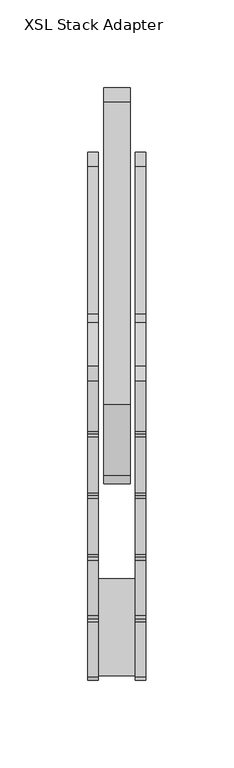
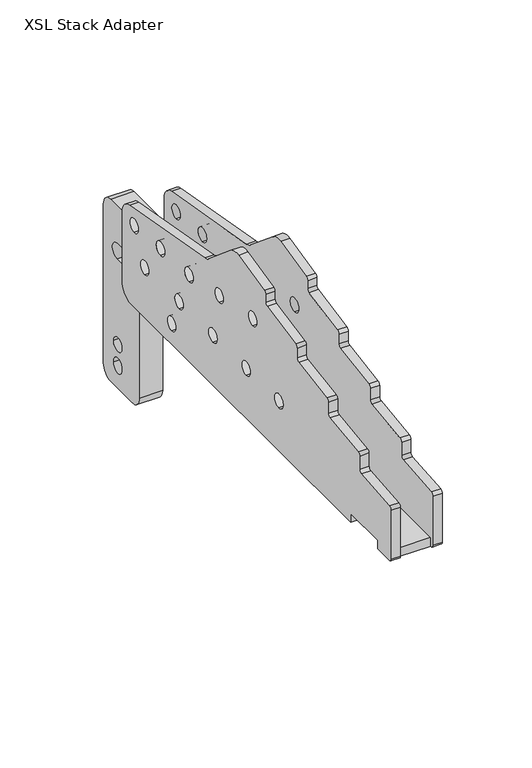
"""IFC4 building model written with IfcOpenShell, lengths in millimetres: proxy geometry, d&b SL-Series XSL Stack Adapter : XSL Stack Adapter."""

import ifcopenshell
import ifcopenshell.guid

model = None  # the IFC model being written
_history = None  # IfcOwnerHistory: only IFC2X3 demands one
_inside = {}  # id of a spatial element -> (the spatial element, [elements in it])
_under = {}  # id of a project, library or spatial element -> (it, [spatial elements below it])
_declared = {}  # id of a project -> (the project, [libraries it declares])
_typed = {}  # id of a type object -> (the type object, [elements of that type])
_made_of = {}  # id of a material, layer set ... -> (it, [elements and type objects made of it])


def new_model(schema):
    """Start an empty IFC model of exactly this schema.

    Asked for "IFC4X3", IfcOpenShell would pick the latest addendum, in which some entities
    have other attributes; the version numbers below select the first issue.
    IFC2X3 requires an IfcOwnerHistory on every rooted entity: one is made here for all.
    """
    global model, _history
    if schema == "IFC4X3":
        model = ifcopenshell.file(schema_version=(4, 3, 0, 0))
    else:
        model = ifcopenshell.file(schema=schema)
    _inside.clear()
    _under.clear()
    _declared.clear()
    _typed.clear()
    _made_of.clear()
    _history = None
    if model.schema == "IFC2X3":
        org = make("IfcOrganization", Name="unknown")
        user = make(
            "IfcPersonAndOrganization",
            ThePerson=make("IfcPerson", FamilyName="unknown"),
            TheOrganization=org,
        )
        app = make(
            "IfcApplication",
            ApplicationDeveloper=org,
            Version="unknown",
            ApplicationFullName="unknown",
            ApplicationIdentifier="unknown",
        )
        _history = make(
            "IfcOwnerHistory",
            OwningUser=user,
            OwningApplication=app,
            ChangeAction="ADDED",
            CreationDate=0,
        )
    return model


def make(cls, **values):
    """One entity of the class cls with the attributes given. An attribute that is None is left unset."""
    return model.create_entity(
        cls, **{name: value for name, value in values.items() if value is not None}
    )


def rooted(cls, **values):
    """An entity with a GlobalId (a new one), such as an element, a storey or a relation."""
    return make(cls, GlobalId=ifcopenshell.guid.new(), OwnerHistory=_history, **values)


def si_unit(unit_type, name, prefix=None):
    """IfcSIUnit, for example si_unit("LENGTHUNIT", "METRE", prefix="MILLI")."""
    return make("IfcSIUnit", UnitType=unit_type, Prefix=prefix, Name=name)


def assignment(units):
    """IfcUnitAssignment: the units of a project."""
    return None if units is None else make("IfcUnitAssignment", Units=units)


def point(xyz):
    """IfcCartesianPoint."""
    return None if xyz is None else make("IfcCartesianPoint", Coordinates=xyz)


def direction(xyz):
    """IfcDirection."""
    return None if xyz is None else make("IfcDirection", DirectionRatios=xyz)


def frame(location, z_axis=None, x_axis=None):
    """IfcAxis2Placement3D, a coordinate frame: its origin and axes. An axis left out is left unset."""
    return make(
        "IfcAxis2Placement3D",
        Location=point(location),
        Axis=direction(z_axis),
        RefDirection=direction(x_axis),
    )


def frame_2d(location, x_axis=None):
    """IfcAxis2Placement2D, a coordinate frame in the plane: its origin and x axis."""
    return make(
        "IfcAxis2Placement2D", Location=point(location), RefDirection=direction(x_axis)
    )


def origin():
    """The frame at (0, 0, 0) with its axes left unset."""
    return frame((0.0, 0.0, 0.0))


def origin_with_axes():
    """The frame at (0, 0, 0) with the z axis (0, 0, 1) and the x axis (1, 0, 0) written out."""
    return frame((0.0, 0.0, 0.0), z_axis=(0.0, 0.0, 1.0), x_axis=(1.0, 0.0, 0.0))


def place(relative_to, where):
    """IfcLocalPlacement: puts the frame where relative to a parent placement (None: the world)."""
    return make(
        "IfcLocalPlacement", PlacementRelTo=relative_to, RelativePlacement=where
    )


def context(
    kind, dimensions, precision=None, world=None, true_north=None, identifier=None
):
    """IfcGeometricRepresentationContext, for example the 3D "Model" context."""
    return make(
        "IfcGeometricRepresentationContext",
        ContextIdentifier=identifier,
        ContextType=kind,
        CoordinateSpaceDimension=dimensions,
        Precision=precision,
        WorldCoordinateSystem=world,
        TrueNorth=true_north,
    )


def project(units=None, contexts=None):
    """IfcProject with its units and contexts."""
    return rooted(
        "IfcProject",
        Name="project",
        RepresentationContexts=contexts,
        UnitsInContext=assignment(units),
    )


def spatial(cls, under=None, at=None, **own):
    """A site, building, storey or space (cls), placed at a placement, below another one or the project."""
    s = rooted(cls, ObjectPlacement=at, **own)
    if under is not None:
        _under.setdefault(under.id(), (under, []))[1].append(s)
    return s


def polyline(points):
    """IfcPolyline through the points."""
    return make("IfcPolyline", Points=[point(p) for p in points])


def circle_curve(where, radius):
    """IfcCircle in the frame where."""
    return make("IfcCircle", Position=where, Radius=radius)


def trimmed(basis, trim1, trim2, sense, master):
    """IfcTrimmedCurve: the piece of a basis curve between two trims."""
    return make(
        "IfcTrimmedCurve",
        BasisCurve=basis,
        Trim1=trim1,
        Trim2=trim2,
        SenseAgreement=sense,
        MasterRepresentation=master,
    )


def segment(curve, same_sense, transition):
    """IfcCompositeCurveSegment."""
    return make(
        "IfcCompositeCurveSegment",
        Transition=transition,
        SameSense=same_sense,
        ParentCurve=curve,
    )


def composite_curve(segments, self_intersect=None):
    """IfcCompositeCurve: segments joined end to end."""
    return make("IfcCompositeCurve", Segments=segments, SelfIntersect=self_intersect)


def outline(outer, holes=None, kind="AREA"):
    """IfcArbitraryClosedProfileDef: a profile drawn as a closed curve; with holes, ...WithVoids."""
    if holes is None:
        return make("IfcArbitraryClosedProfileDef", ProfileType=kind, OuterCurve=outer)
    return make(
        "IfcArbitraryProfileDefWithVoids",
        ProfileType=kind,
        OuterCurve=outer,
        InnerCurves=holes,
    )


def extrude(swept, where, along, depth):
    """IfcExtrudedAreaSolid: the profile swept, set in the frame where, extruded along a direction by depth."""
    return make(
        "IfcExtrudedAreaSolid",
        SweptArea=swept,
        Position=where,
        ExtrudedDirection=direction(along),
        Depth=depth,
    )


def shape(context_of_items, identifier, shape_type, items):
    """IfcShapeRepresentation: the items that make up one representation, for example the "Body"."""
    return make(
        "IfcShapeRepresentation",
        ContextOfItems=context_of_items,
        RepresentationIdentifier=identifier,
        RepresentationType=shape_type,
        Items=items,
    )


def source(mapping_origin, context_of_items, identifier, shape_type, items):
    """IfcRepresentationMap: a shape defined once, which mapped items show again and again."""
    return make(
        "IfcRepresentationMap",
        MappingOrigin=mapping_origin,
        MappedRepresentation=shape(context_of_items, identifier, shape_type, items),
    )


def transform(
    local_origin,
    x_axis=None,
    y_axis=None,
    z_axis=None,
    scale=None,
    scale2=None,
    scale3=None,
    uniform=True,
):
    """IfcCartesianTransformationOperator3D, or its non-uniform kind. x_axis, y_axis, z_axis: its Axis1, 2, 3."""
    if uniform:
        return make(
            "IfcCartesianTransformationOperator3D",
            Axis1=direction(x_axis),
            Axis2=direction(y_axis),
            LocalOrigin=point(local_origin),
            Scale=scale,
            Axis3=direction(z_axis),
        )
    return make(
        "IfcCartesianTransformationOperator3DnonUniform",
        Axis1=direction(x_axis),
        Axis2=direction(y_axis),
        LocalOrigin=point(local_origin),
        Scale=scale,
        Axis3=direction(z_axis),
        Scale2=scale2,
        Scale3=scale3,
    )


def mapped(mapping_source, mapping_target):
    """IfcMappedItem: shows the shape of a source again, moved by a transform."""
    return make(
        "IfcMappedItem", MappingSource=mapping_source, MappingTarget=mapping_target
    )


def made_of(thing, what):
    """Note that an element or type object is made of a material, layer set ...; save() writes the relation."""
    if what is not None:
        _made_of.setdefault(what.id(), (what, []))[1].append(thing)
    return thing


def element(
    cls,
    number,
    at=None,
    inside=None,
    cuts=None,
    type_object=None,
    material=None,
    context=None,
    identifier="Body",
    shape_type=None,
    held_by="IfcProductDefinitionShape",
    body=None,
    shapes=None,
    **own,
):
    """One element of the class cls, such as IfcWall. Its Tag is "e" and its number.

    at: its placement. inside: the storey or other place that contains it. cuts: it is an
    opening in that element (IfcRelVoidsElement). A single representation is given by context,
    identifier, shape_type and body (its items); several are given by shapes. held_by: the class
    of the entity that holds the representations. save() writes the other relations.
    """
    e = rooted(cls, Tag="e%d" % number, ObjectPlacement=at, **own)
    if body is not None:
        shapes = [shape(context, identifier, shape_type, body)]
    if shapes is not None:
        e.Representation = make(held_by, Representations=shapes)
    if inside is not None:
        _inside.setdefault(inside.id(), (inside, []))[1].append(e)
    if cuts is not None:
        rooted(
            "IfcRelVoidsElement", RelatingBuildingElement=cuts, RelatedOpeningElement=e
        )
    if type_object is not None:
        _typed.setdefault(type_object.id(), (type_object, []))[1].append(e)
    return made_of(e, material)


def aggregate(whole, parts):
    """IfcRelAggregates: a whole, such as a stair, and the parts it consists of."""
    return rooted("IfcRelAggregates", RelatingObject=whole, RelatedObjects=parts)


def save(model, path):
    """Write the relations noted so far, then the file.

    IfcRelAggregates (storeys below a building ...), IfcRelContainedInSpatialStructure (elements
    in a storey), IfcRelDefinesByType, IfcRelAssociatesMaterial and IfcRelDeclares: one each for
    every whole, place, type object, material and project.
    """
    for whole, parts in _under.values():
        aggregate(whole, parts)
    for where, things in _inside.values():
        rooted(
            "IfcRelContainedInSpatialStructure",
            RelatedElements=things,
            RelatingStructure=where,
        )
    for kind, things in _typed.values():
        rooted("IfcRelDefinesByType", RelatedObjects=things, RelatingType=kind)
    for what, things in _made_of.values():
        rooted("IfcRelAssociatesMaterial", RelatedObjects=things, RelatingMaterial=what)
    for by, libraries in _declared.values():
        rooted("IfcRelDeclares", RelatingContext=by, RelatedDefinitions=libraries)
    model.write(path)


def xsl_stack_adapter_3c41b4e6(model_context):
    return source(origin(), model_context, "Body", "SweptSolid", [
        extrude(outline(composite_curve([segment(polyline([(-143.6, 45.0), (28.6, 45.0)]), True, "CONTINUOUS"), segment(trimmed(circle_curve(frame_2d((28.6, 37.0)), 8.0), [point((28.6, 45.0))], [point((36.6, 37.0))], False, "CARTESIAN"), True, "CONTINUOUS"), segment(polyline([(36.6, 37.0), (36.6, -71.3)]), True, "CONTINUOUS"), segment(trimmed(circle_curve(frame_2d((28.6, -71.3)), 8.0), [point((36.6, -71.3))], [point((28.6, -79.3))], False, "CARTESIAN"), True, "CONTINUOUS"), segment(polyline([(28.6, -79.3), (4.6, -79.3)]), True, "CONTINUOUS"), segment(trimmed(circle_curve(frame_2d((4.6, -71.3)), 8.0), [point((4.6, -79.3))], [point((-3.4, -71.3))], False, "CARTESIAN"), True, "CONTINUOUS"), segment(polyline([(-3.4, -71.3), (-3.4, -8.0018433)]), True, "CONTINUOUS"), segment(trimmed(circle_curve(frame_2d((-11.4018433, -8.0018433)), 8.0018433), [point((-3.4, -8.0018433))], [point((-11.4018433, 0.0))], True, "CARTESIAN"), True, "CONTINUOUS"), segment(polyline([(-11.4018433, 0.0), (-180.3955627, 0.0)]), True, "CONTINUOUS"), segment(trimmed(circle_curve(frame_2d((-180.3955627, 8.0044373)), 8.0044373), [point((-180.3955627, 0.0))], [point((-188.4, 8.0044373))], False, "CARTESIAN"), True, "CONTINUOUS"), segment(polyline([(-188.4, 8.0044373), (-188.4, 19.0128548)]), True, "CONTINUOUS"), segment(trimmed(circle_curve(frame_2d((-180.4, 19.0128548)), 8.0), [point((-188.4, 19.0128548))], [point((-183.7809461, 26.2633171))], False, "CARTESIAN"), True, "CONTINUOUS"), segment(polyline([(-183.7809461, 26.2633171), (-143.6, 45.0)]), True, "CONTINUOUS")], self_intersect=False), holes=[composite_curve([segment(trimmed(circle_curve(frame_2d((20.6, -64.15)), 4.65), [point((15.9769599, -63.65))], [point((25.2230401, -63.65))], True, "CARTESIAN"), True, "CONTINUOUS"), segment(trimmed(circle_curve(frame_2d((20.6, -63.15)), 4.65), [point((25.2230401, -63.65))], [point((15.9769599, -63.65))], True, "CARTESIAN"), True, "CONTINUOUS")], self_intersect=False), composite_curve([segment(trimmed(circle_curve(frame_2d((20.6, -49.3)), 4.65), [point((25.25, -49.3))], [point((15.95, -49.3))], True, "CARTESIAN"), True, "CONTINUOUS"), segment(trimmed(circle_curve(frame_2d((20.6, -49.3)), 4.65), [point((15.95, -49.3))], [point((25.25, -49.3))], True, "CARTESIAN"), True, "CONTINUOUS")], self_intersect=False), composite_curve([segment(trimmed(circle_curve(frame_2d((-170.9, 14.0)), 5.15), [point((-170.9, 19.15))], [point((-170.9, 8.85))], True, "CARTESIAN"), True, "CONTINUOUS"), segment(polyline([(-170.9, 8.85), (21.4, 8.85)]), True, "CONTINUOUS"), segment(trimmed(circle_curve(frame_2d((21.4, 14.0)), 5.15), [point((21.4, 8.85))], [point((21.4, 19.15))], True, "CARTESIAN"), True, "CONTINUOUS"), segment(polyline([(21.4, 19.15), (-170.9, 19.15)]), True, "CONTINUOUS")], self_intersect=False)]), frame((-7.5, 0.0, 0.0), z_axis=(1.0, 0.0, 0.0), x_axis=(0.0, 1.0, 0.0)), (0.0, 0.0, 1.0), 15.0),
        extrude(outline(composite_curve([segment(trimmed(circle_curve(frame_2d((-10.0, 56.6090037)), 10.0), [point((-8.2635182, 66.4570812))], [point((0.0, 56.6090037))], False, "CARTESIAN"), True, "CONTINUOUS"), segment(polyline([(0.0, 56.6090037), (0.0, 10.0)]), True, "CONTINUOUS"), segment(trimmed(circle_curve(frame_2d((-10.0, 10.0)), 10.0), [point((0.0, 10.0))], [point((-10.0, 0.0))], False, "CARTESIAN"), True, "CONTINUOUS"), segment(polyline([(-10.0, 0.0), (-255.45, 0.0), (-255.45, 6.0), (-285.2, 6.0), (-285.2, 0.0), (-298.239813, 0.0)]), True, "CONTINUOUS"), segment(trimmed(circle_curve(frame_2d((-298.239813, 1.960187)), 1.960187), [point((-298.239813, 0.0))], [point((-300.2, 1.960187))], False, "CARTESIAN"), True, "CONTINUOUS"), segment(polyline([(-300.2, 1.960187), (-300.2, 35.4052344)]), True, "CONTINUOUS"), segment(trimmed(circle_curve(frame_2d((-298.2, 35.4052344)), 2.0), [point((-300.2, 35.4052344))], [point((-298.3743115, 37.3976238))], False, "CARTESIAN"), True, "CONTINUOUS"), segment(polyline([(-298.3743115, 37.3976238), (-267.0256885, 40.140273)]), True, "CONTINUOUS"), segment(trimmed(circle_curve(frame_2d((-267.2, 42.1326623)), 2.0), [point((-267.0256885, 40.140273))], [point((-265.2, 42.1326623))], True, "CARTESIAN"), True, "CONTINUOUS"), segment(polyline([(-265.2, 42.1326623), (-265.2, 51.1330898)]), True, "CONTINUOUS"), segment(trimmed(circle_curve(frame_2d((-263.2, 51.1330898)), 2.0), [point((-265.2, 51.1330898))], [point((-263.4437387, 53.1181821))], False, "CARTESIAN"), True, "CONTINUOUS"), segment(polyline([(-263.4437387, 53.1181821), (-231.9562613, 56.9843582)]), True, "CONTINUOUS"), segment(trimmed(circle_curve(frame_2d((-232.2, 58.9694505)), 2.0), [point((-231.9562613, 56.9843582))], [point((-230.2, 58.9694505))], True, "CARTESIAN"), True, "CONTINUOUS"), segment(polyline([(-230.2, 58.9694505), (-230.2, 66.7483832)]), True, "CONTINUOUS"), segment(trimmed(circle_curve(frame_2d((-228.2, 66.7483832)), 2.0), [point((-230.2, 66.7483832))], [point((-228.5128689, 68.7237599))], False, "CARTESIAN"), True, "CONTINUOUS"), segment(polyline([(-228.5128689, 68.7237599), (-196.8871311, 73.7327847)]), True, "CONTINUOUS"), segment(trimmed(circle_curve(frame_2d((-197.2, 75.7081614)), 2.0), [point((-196.8871311, 73.7327847))], [point((-195.2, 75.7081614))], True, "CARTESIAN"), True, "CONTINUOUS"), segment(polyline([(-195.2, 75.7081614), (-195.2, 82.3480164)]), True, "CONTINUOUS"), segment(trimmed(circle_curve(frame_2d((-193.2, 82.3480164)), 2.0), [point((-195.2, 82.3480164))], [point((-193.581618, 84.3112708))], False, "CARTESIAN"), True, "CONTINUOUS"), segment(polyline([(-193.581618, 84.3112708), (-161.818382, 90.4854184)]), True, "CONTINUOUS"), segment(trimmed(circle_curve(frame_2d((-162.2, 92.4486728)), 2.0), [point((-161.818382, 90.4854184))], [point((-160.2, 92.4486728))], True, "CARTESIAN"), True, "CONTINUOUS"), segment(polyline([(-160.2, 92.4486728), (-160.2, 97.7323257)]), True, "CONTINUOUS"), segment(trimmed(circle_curve(frame_2d((-158.2045059, 97.7323257)), 1.9954941), [point((-160.2, 97.7323257))], [point((-158.6533944, 99.6766753))], False, "CARTESIAN"), True, "CONTINUOUS"), segment(polyline([(-158.6533944, 99.6766753), (-130.0580299, 106.2784354)]), True, "CONTINUOUS"), segment(trimmed(circle_curve(frame_2d((-127.8085194, 96.5347348)), 10.0), [point((-130.0580299, 106.2784354))], [point((-121.3806433, 104.1951792))], False, "CARTESIAN"), True, "CONTINUOUS"), segment(polyline([(-121.3806433, 104.1951792), (-96.5877024, 83.3914316)]), True, "CONTINUOUS"), segment(trimmed(circle_curve(frame_2d((-90.1598263, 91.0518761)), 10.0), [point((-96.5877024, 83.3914316))], [point((-91.8963081, 81.2037985))], True, "CARTESIAN"), True, "CONTINUOUS"), segment(polyline([(-91.8963081, 81.2037985), (-8.2635182, 66.4570812)]), True, "CONTINUOUS")], self_intersect=False), holes=[composite_curve([segment(trimmed(circle_curve(frame_2d((-13.4, 55.6)), 4.65), [point((-13.4, 50.95))], [point((-13.4, 60.25))], True, "CARTESIAN"), True, "CONTINUOUS"), segment(trimmed(circle_curve(frame_2d((-13.4, 55.6)), 4.65), [point((-13.4, 60.25))], [point((-13.4, 50.95))], True, "CARTESIAN"), True, "CONTINUOUS")], self_intersect=False), composite_curve([segment(trimmed(circle_curve(frame_2d((-42.8, 57.7)), 4.65), [point((-42.8, 53.05))], [point((-42.8, 62.35))], True, "CARTESIAN"), True, "CONTINUOUS"), segment(trimmed(circle_curve(frame_2d((-42.8, 57.7)), 4.65), [point((-42.8, 62.35))], [point((-42.8, 53.05))], True, "CARTESIAN"), True, "CONTINUOUS")], self_intersect=False), composite_curve([segment(trimmed(circle_curve(frame_2d((-25.2, 34.0)), 4.65), [point((-25.2, 29.35))], [point((-25.2, 38.65))], True, "CARTESIAN"), True, "CONTINUOUS"), segment(trimmed(circle_curve(frame_2d((-25.2, 34.0)), 4.65), [point((-25.2, 38.65))], [point((-25.2, 29.35))], True, "CARTESIAN"), True, "CONTINUOUS")], self_intersect=False), composite_curve([segment(trimmed(circle_curve(frame_2d((-63.5, 34.0)), 4.65), [point((-63.5, 29.35))], [point((-63.5, 38.65))], True, "CARTESIAN"), True, "CONTINUOUS"), segment(trimmed(circle_curve(frame_2d((-63.5, 34.0)), 4.65), [point((-63.5, 38.65))], [point((-63.5, 29.35))], True, "CARTESIAN"), True, "CONTINUOUS")], self_intersect=False), composite_curve([segment(trimmed(circle_curve(frame_2d((-74.6, 59.1)), 4.65), [point((-74.6, 54.45))], [point((-74.6, 63.75))], True, "CARTESIAN"), True, "CONTINUOUS"), segment(trimmed(circle_curve(frame_2d((-74.6, 59.1)), 4.65), [point((-74.6, 63.75))], [point((-74.6, 54.45))], True, "CARTESIAN"), True, "CONTINUOUS")], self_intersect=False), composite_curve([segment(trimmed(circle_curve(frame_2d((-101.3, 34.0)), 4.65), [point((-101.3, 29.35))], [point((-101.3, 38.65))], True, "CARTESIAN"), True, "CONTINUOUS"), segment(trimmed(circle_curve(frame_2d((-101.3, 34.0)), 4.65), [point((-101.3, 38.65))], [point((-101.3, 29.35))], True, "CARTESIAN"), True, "CONTINUOUS")], self_intersect=False), composite_curve([segment(trimmed(circle_curve(frame_2d((-108.4, 65.5)), 4.65), [point((-108.4, 60.85))], [point((-108.4, 70.15))], True, "CARTESIAN"), True, "CONTINUOUS"), segment(trimmed(circle_curve(frame_2d((-108.4, 65.5)), 4.65), [point((-108.4, 70.15))], [point((-108.4, 60.85))], True, "CARTESIAN"), True, "CONTINUOUS")], self_intersect=False), composite_curve([segment(trimmed(circle_curve(frame_2d((-55.2, 14.0)), 4.65), [point((-55.2, 9.35))], [point((-55.2, 18.65))], True, "CARTESIAN"), True, "CONTINUOUS"), segment(trimmed(circle_curve(frame_2d((-55.2, 14.0)), 4.65), [point((-55.2, 18.65))], [point((-55.2, 9.35))], True, "CARTESIAN"), True, "CONTINUOUS")], self_intersect=False), composite_curve([segment(trimmed(circle_curve(frame_2d((-138.4, 34.0)), 4.65), [point((-138.4, 29.35))], [point((-138.4, 38.65))], True, "CARTESIAN"), True, "CONTINUOUS"), segment(trimmed(circle_curve(frame_2d((-138.4, 34.0)), 4.65), [point((-138.4, 38.65))], [point((-138.4, 29.35))], True, "CARTESIAN"), True, "CONTINUOUS")], self_intersect=False), composite_curve([segment(trimmed(circle_curve(frame_2d((-145.7, 72.3)), 4.65), [point((-145.7, 67.65))], [point((-145.7, 76.95))], True, "CARTESIAN"), True, "CONTINUOUS"), segment(trimmed(circle_curve(frame_2d((-145.7, 72.3)), 4.65), [point((-145.7, 76.95))], [point((-145.7, 67.65))], True, "CARTESIAN"), True, "CONTINUOUS")], self_intersect=False), composite_curve([segment(trimmed(circle_curve(frame_2d((-175.0, 34.0)), 4.65), [point((-175.0, 29.35))], [point((-175.0, 38.65))], True, "CARTESIAN"), True, "CONTINUOUS"), segment(trimmed(circle_curve(frame_2d((-175.0, 34.0)), 4.65), [point((-175.0, 38.65))], [point((-175.0, 29.35))], True, "CARTESIAN"), True, "CONTINUOUS")], self_intersect=False)]), frame((-16.5, 0.0, 0.0), z_axis=(1.0, 0.0, 0.0), x_axis=(0.0, 1.0, 0.0)), (0.0, 0.0, 1.0), 6.0),
        extrude(outline(composite_curve([segment(trimmed(circle_curve(frame_2d((-10.0, 56.6090037)), 10.0), [point((-8.2635182, 66.4570812))], [point((0.0, 56.6090037))], False, "CARTESIAN"), True, "CONTINUOUS"), segment(polyline([(0.0, 56.6090037), (0.0, 10.0)]), True, "CONTINUOUS"), segment(trimmed(circle_curve(frame_2d((-10.0, 10.0)), 10.0), [point((0.0, 10.0))], [point((-10.0, 0.0))], False, "CARTESIAN"), True, "CONTINUOUS"), segment(polyline([(-10.0, 0.0), (-255.45, 0.0), (-255.45, 6.0), (-285.2, 6.0), (-285.2, 0.0), (-298.239813, 0.0)]), True, "CONTINUOUS"), segment(trimmed(circle_curve(frame_2d((-298.239813, 1.960187)), 1.960187), [point((-298.239813, 0.0))], [point((-300.2, 1.960187))], False, "CARTESIAN"), True, "CONTINUOUS"), segment(polyline([(-300.2, 1.960187), (-300.2, 35.4052344)]), True, "CONTINUOUS"), segment(trimmed(circle_curve(frame_2d((-298.2, 35.4052344)), 2.0), [point((-300.2, 35.4052344))], [point((-298.3743115, 37.3976238))], False, "CARTESIAN"), True, "CONTINUOUS"), segment(polyline([(-298.3743115, 37.3976238), (-267.0256885, 40.140273)]), True, "CONTINUOUS"), segment(trimmed(circle_curve(frame_2d((-267.2, 42.1326623)), 2.0), [point((-267.0256885, 40.140273))], [point((-265.2, 42.1326623))], True, "CARTESIAN"), True, "CONTINUOUS"), segment(polyline([(-265.2, 42.1326623), (-265.2, 51.1330898)]), True, "CONTINUOUS"), segment(trimmed(circle_curve(frame_2d((-263.2, 51.1330898)), 2.0), [point((-265.2, 51.1330898))], [point((-263.4437387, 53.1181821))], False, "CARTESIAN"), True, "CONTINUOUS"), segment(polyline([(-263.4437387, 53.1181821), (-231.9562613, 56.9843582)]), True, "CONTINUOUS"), segment(trimmed(circle_curve(frame_2d((-232.2, 58.9694505)), 2.0), [point((-231.9562613, 56.9843582))], [point((-230.2, 58.9694505))], True, "CARTESIAN"), True, "CONTINUOUS"), segment(polyline([(-230.2, 58.9694505), (-230.2, 66.7483832)]), True, "CONTINUOUS"), segment(trimmed(circle_curve(frame_2d((-228.2, 66.7483832)), 2.0), [point((-230.2, 66.7483832))], [point((-228.5128689, 68.7237599))], False, "CARTESIAN"), True, "CONTINUOUS"), segment(polyline([(-228.5128689, 68.7237599), (-196.8871311, 73.7327847)]), True, "CONTINUOUS"), segment(trimmed(circle_curve(frame_2d((-197.2, 75.7081614)), 2.0), [point((-196.8871311, 73.7327847))], [point((-195.2, 75.7081614))], True, "CARTESIAN"), True, "CONTINUOUS"), segment(polyline([(-195.2, 75.7081614), (-195.2, 82.3480164)]), True, "CONTINUOUS"), segment(trimmed(circle_curve(frame_2d((-193.2, 82.3480164)), 2.0), [point((-195.2, 82.3480164))], [point((-193.581618, 84.3112708))], False, "CARTESIAN"), True, "CONTINUOUS"), segment(polyline([(-193.581618, 84.3112708), (-161.818382, 90.4854184)]), True, "CONTINUOUS"), segment(trimmed(circle_curve(frame_2d((-162.2, 92.4486728)), 2.0), [point((-161.818382, 90.4854184))], [point((-160.2, 92.4486728))], True, "CARTESIAN"), True, "CONTINUOUS"), segment(polyline([(-160.2, 92.4486728), (-160.2, 97.7323257)]), True, "CONTINUOUS"), segment(trimmed(circle_curve(frame_2d((-158.2045059, 97.7323257)), 1.9954941), [point((-160.2, 97.7323257))], [point((-158.6533944, 99.6766753))], False, "CARTESIAN"), True, "CONTINUOUS"), segment(polyline([(-158.6533944, 99.6766753), (-130.0580299, 106.2784354)]), True, "CONTINUOUS"), segment(trimmed(circle_curve(frame_2d((-127.8085194, 96.5347348)), 10.0), [point((-130.0580299, 106.2784354))], [point((-121.3806433, 104.1951792))], False, "CARTESIAN"), True, "CONTINUOUS"), segment(polyline([(-121.3806433, 104.1951792), (-96.5877024, 83.3914316)]), True, "CONTINUOUS"), segment(trimmed(circle_curve(frame_2d((-90.1598263, 91.0518761)), 10.0), [point((-96.5877024, 83.3914316))], [point((-91.8963081, 81.2037985))], True, "CARTESIAN"), True, "CONTINUOUS"), segment(polyline([(-91.8963081, 81.2037985), (-8.2635182, 66.4570812)]), True, "CONTINUOUS")], self_intersect=False), holes=[composite_curve([segment(trimmed(circle_curve(frame_2d((-13.4, 55.6)), 4.65), [point((-13.4, 50.95))], [point((-13.4, 60.25))], True, "CARTESIAN"), True, "CONTINUOUS"), segment(trimmed(circle_curve(frame_2d((-13.4, 55.6)), 4.65), [point((-13.4, 60.25))], [point((-13.4, 50.95))], True, "CARTESIAN"), True, "CONTINUOUS")], self_intersect=False), composite_curve([segment(trimmed(circle_curve(frame_2d((-42.8, 57.7)), 4.65), [point((-42.8, 53.05))], [point((-42.8, 62.35))], True, "CARTESIAN"), True, "CONTINUOUS"), segment(trimmed(circle_curve(frame_2d((-42.8, 57.7)), 4.65), [point((-42.8, 62.35))], [point((-42.8, 53.05))], True, "CARTESIAN"), True, "CONTINUOUS")], self_intersect=False), composite_curve([segment(trimmed(circle_curve(frame_2d((-25.2, 34.0)), 4.65), [point((-25.2, 29.35))], [point((-25.2, 38.65))], True, "CARTESIAN"), True, "CONTINUOUS"), segment(trimmed(circle_curve(frame_2d((-25.2, 34.0)), 4.65), [point((-25.2, 38.65))], [point((-25.2, 29.35))], True, "CARTESIAN"), True, "CONTINUOUS")], self_intersect=False), composite_curve([segment(trimmed(circle_curve(frame_2d((-63.5, 34.0)), 4.65), [point((-63.5, 29.35))], [point((-63.5, 38.65))], True, "CARTESIAN"), True, "CONTINUOUS"), segment(trimmed(circle_curve(frame_2d((-63.5, 34.0)), 4.65), [point((-63.5, 38.65))], [point((-63.5, 29.35))], True, "CARTESIAN"), True, "CONTINUOUS")], self_intersect=False), composite_curve([segment(trimmed(circle_curve(frame_2d((-74.6, 59.1)), 4.65), [point((-74.6, 54.45))], [point((-74.6, 63.75))], True, "CARTESIAN"), True, "CONTINUOUS"), segment(trimmed(circle_curve(frame_2d((-74.6, 59.1)), 4.65), [point((-74.6, 63.75))], [point((-74.6, 54.45))], True, "CARTESIAN"), True, "CONTINUOUS")], self_intersect=False), composite_curve([segment(trimmed(circle_curve(frame_2d((-101.3, 34.0)), 4.65), [point((-101.3, 29.35))], [point((-101.3, 38.65))], True, "CARTESIAN"), True, "CONTINUOUS"), segment(trimmed(circle_curve(frame_2d((-101.3, 34.0)), 4.65), [point((-101.3, 38.65))], [point((-101.3, 29.35))], True, "CARTESIAN"), True, "CONTINUOUS")], self_intersect=False), composite_curve([segment(trimmed(circle_curve(frame_2d((-108.4, 65.5)), 4.65), [point((-108.4, 60.85))], [point((-108.4, 70.15))], True, "CARTESIAN"), True, "CONTINUOUS"), segment(trimmed(circle_curve(frame_2d((-108.4, 65.5)), 4.65), [point((-108.4, 70.15))], [point((-108.4, 60.85))], True, "CARTESIAN"), True, "CONTINUOUS")], self_intersect=False), composite_curve([segment(trimmed(circle_curve(frame_2d((-55.2, 14.0)), 4.65), [point((-55.2, 9.35))], [point((-55.2, 18.65))], True, "CARTESIAN"), True, "CONTINUOUS"), segment(trimmed(circle_curve(frame_2d((-55.2, 14.0)), 4.65), [point((-55.2, 18.65))], [point((-55.2, 9.35))], True, "CARTESIAN"), True, "CONTINUOUS")], self_intersect=False), composite_curve([segment(trimmed(circle_curve(frame_2d((-138.4, 34.0)), 4.65), [point((-138.4, 29.35))], [point((-138.4, 38.65))], True, "CARTESIAN"), True, "CONTINUOUS"), segment(trimmed(circle_curve(frame_2d((-138.4, 34.0)), 4.65), [point((-138.4, 38.65))], [point((-138.4, 29.35))], True, "CARTESIAN"), True, "CONTINUOUS")], self_intersect=False), composite_curve([segment(trimmed(circle_curve(frame_2d((-145.7, 72.3)), 4.65), [point((-145.7, 67.65))], [point((-145.7, 76.95))], True, "CARTESIAN"), True, "CONTINUOUS"), segment(trimmed(circle_curve(frame_2d((-145.7, 72.3)), 4.65), [point((-145.7, 76.95))], [point((-145.7, 67.65))], True, "CARTESIAN"), True, "CONTINUOUS")], self_intersect=False), composite_curve([segment(trimmed(circle_curve(frame_2d((-175.0, 34.0)), 4.65), [point((-175.0, 29.35))], [point((-175.0, 38.65))], True, "CARTESIAN"), True, "CONTINUOUS"), segment(trimmed(circle_curve(frame_2d((-175.0, 34.0)), 4.65), [point((-175.0, 38.65))], [point((-175.0, 29.35))], True, "CARTESIAN"), True, "CONTINUOUS")], self_intersect=False)]), frame((10.5, 0.0, 0.0), z_axis=(1.0, 0.0, 0.0), x_axis=(0.0, 1.0, 0.0)), (0.0, 0.0, 1.0), 6.0),
        extrude(outline(polyline([(10.5, -242.7), (10.5, -297.7), (-10.5, -297.7), (-10.5, -242.7), (10.5, -242.7)])), origin_with_axes(), (0.0, 0.0, 1.0), 6.0),
    ])


if __name__ == "__main__":
    model = new_model("IFC4")
    model_context = context("Model", 3, world=origin())
    ifc_project = project(units=[si_unit("LENGTHUNIT", "METRE", prefix="MILLI")], contexts=[model_context])
    site = spatial("IfcSite", under=ifc_project)
    building = spatial("IfcBuilding", under=site)
    placement = place(None, origin())
    xsl_stack_adapter_shape = xsl_stack_adapter_3c41b4e6(model_context)
    element("IfcBuildingElementProxy", 1, Name="d&b SL-Series XSL Stack Adapter : XSL Stack Adapter", ObjectType="d&b SL-Series XSL Stack Adapter : XSL Stack Adapter", at=placement, inside=building, context=model_context, shape_type="MappedRepresentation", body=[
        mapped(xsl_stack_adapter_shape, transform((0.0, 0.0, 0.0), x_axis=(1.0, 0.0, 0.0), y_axis=(0.0, 1.0, 0.0), z_axis=(0.0, 0.0, 1.0))),
    ])
    save(model, "model.ifc")
